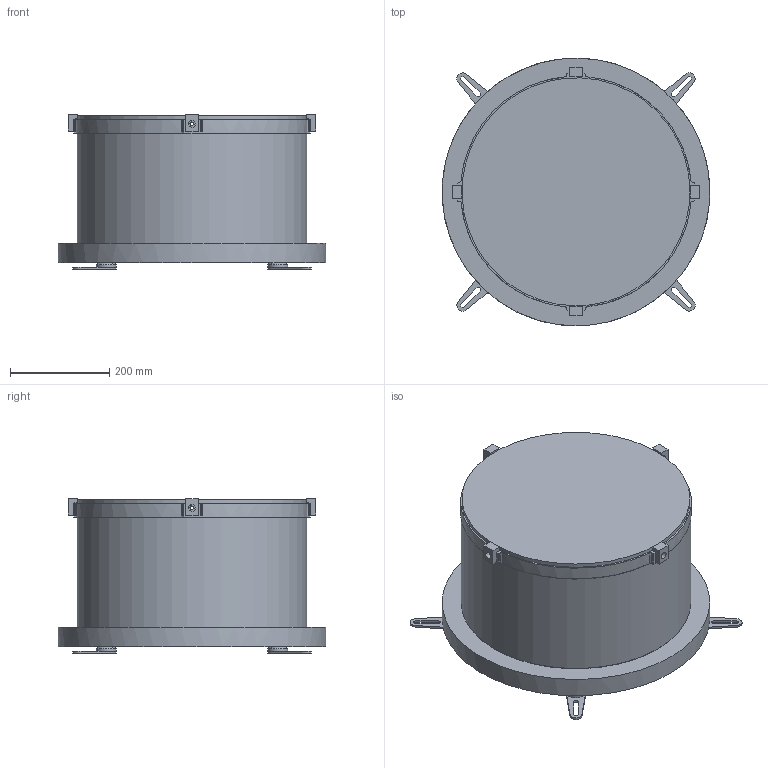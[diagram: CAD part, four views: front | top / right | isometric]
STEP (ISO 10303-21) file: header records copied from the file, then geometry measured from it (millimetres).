
FILE_DESCRIPTION( ('This file contains a STEP AP42 implementation' ,'as created by ZW3D STEP Interface translator.') ,'2;1' );
FILE_NAME( 'HD-TC460耀倰202606.stp' ,'26 6 5.132343', (''), ('ZWCAD Software Co.'), 'Version 1.0', 'ZW3D to STEP translator', '' );
FILE_SCHEMA( ('CONFIG_CONTROL_DESIGN') );
Length unit declared in the file: millimetre
Products named in the file (2): 0; HD-TC460耀倰202606
Bounding box: 539.55 x 539.93 x 312.01 mm (x, y, z)
Volume: 46951.8 mm3; surface area: 955249.5 mm2
Topology: 4 solids, 11 shells, 164 faces, 483 edges, 340 vertices
Faces by surface type: bspline 164
Entity records: 9351 total; most frequent: CARTESIAN_POINT 6269, ORIENTED_EDGE 946, EDGE_CURVE 483, B_SPLINE_CURVE_WITH_KNOTS 411, VERTEX_POINT 340, EDGE_LOOP 195, FACE_OUTER_BOUND 164, ADVANCED_FACE 164
